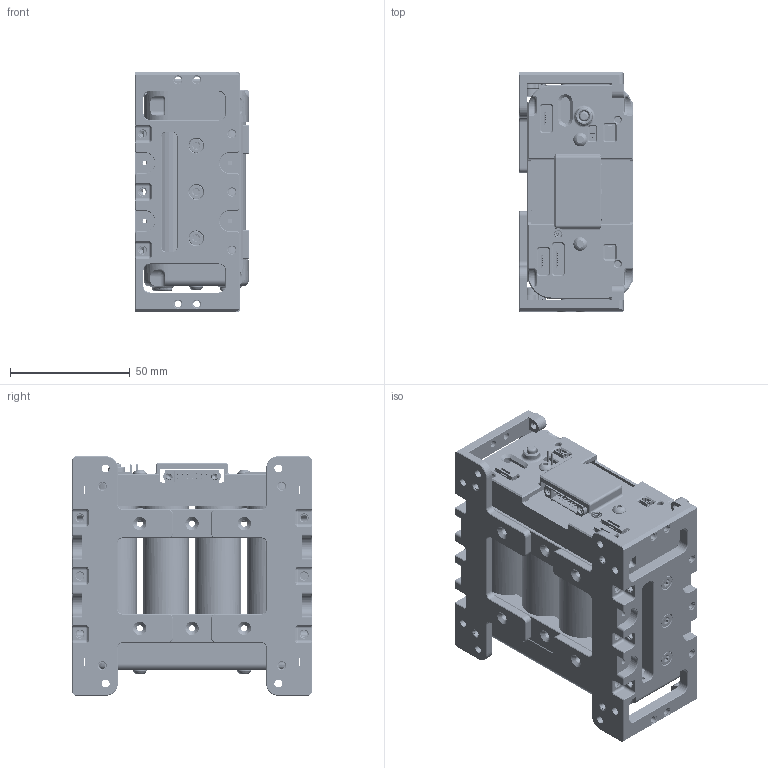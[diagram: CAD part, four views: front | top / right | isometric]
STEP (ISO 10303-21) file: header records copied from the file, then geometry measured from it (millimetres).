
FILE_DESCRIPTION(('HOOPS Exchange Step'),'2;1');
FILE_NAME('/tmp/a41ab3a1f2922dba142ae739815d673620230504-1-1megjdd.SLDPRT.step','2023-05-04T19:31:32+00:00',('root'),('Unknown organisation'),'HOOPS Exchange 2021.0','HOOPS Exchange','Unknown authorisation');
FILE_SCHEMA( ('AUTOMOTIVE_DESIGN { 1 0 10303 214 1 1 1 1 }') );
Length unit declared in the file: inch
Products named in the file (2): Default; a41ab3a1f2922dba142ae739815d673620230504-1-1megjdd
Assembly tree (1 placements, depth 2):
  a41ab3a1f2922dba142ae739815d673620230504-1-1megjdd
    Default
Bounding box: 47.63 x 99.99 x 100 mm (x, y, z)
Volume: 259825.2 mm3; surface area: 107355.4 mm2
Topology: 1 solids, 4 shells, 5739 faces, 16279 edges, 10480 vertices
Faces by surface type: plane 2694, cone 1304, cylinder 1154, torus 371, bspline 154, sphere 62
Full cylindrical faces by diameter (mm): 0.46 x1, 0.496 x28, 0.497 x28, 0.5 x28, 0.51 x28, 0.65 x28, 0.7 x2, 0.8 x4, 0.813 x2, 0.84 x5, 0.9 x4, 1 x2, 1.02 x21, 1.587 x4, 1.62 x44, 1.623 x32, 1.65 x2, 2.05 x8, 2.2 x4, 2.25 x2, 2.41 x1, 2.5 x2, 2.55 x12, 2.697 x34, 2.769 x12, 2.89 x1, 2.9 x4, 2.98 x8, 3 x18, 3.02 x1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
Entity records: 286484 total; most frequent: CARTESIAN_POINT 135620, ORIENTED_EDGE 32488, DIRECTION 31047, EDGE_CURVE 16244, AXIS2_PLACEMENT_3D 11185, VERTEX_POINT 10480, VECTOR 8677, LINE 8677
